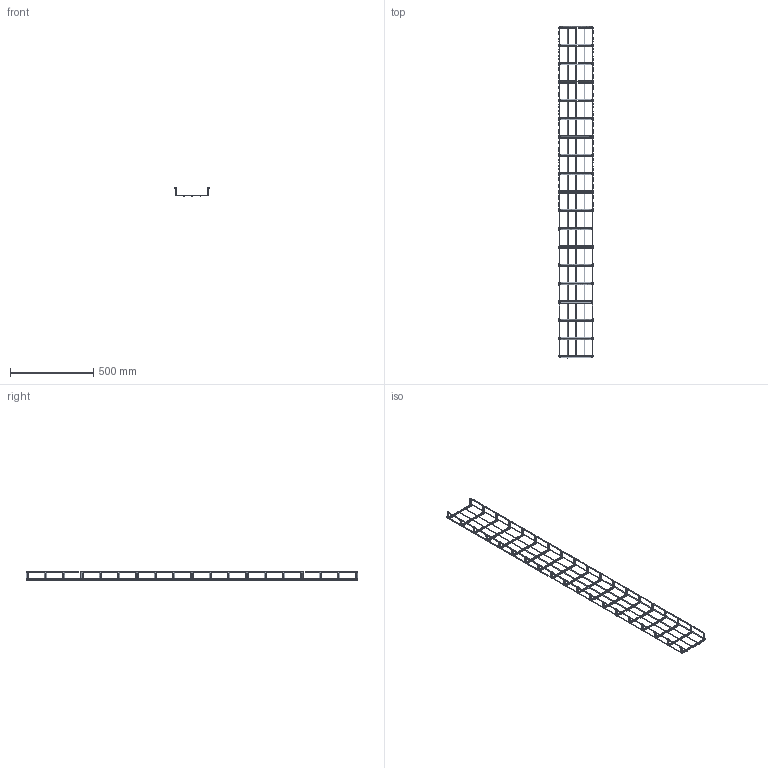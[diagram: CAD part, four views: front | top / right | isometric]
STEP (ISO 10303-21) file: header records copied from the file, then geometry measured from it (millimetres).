
FILE_DESCRIPTION(/* description */ (''),/* implementation_level */ '2;1');
FILE_NAME(/* name */ 'M2_200×050',/* time_stamp */ '2012-11-29T22:06:04+01:00',/* author */ (''),/* organization */ (''),/* preprocessor_version */ 'ST-DEVELOPER v10',/* originating_system */ '',/* authorisation */ '');
FILE_SCHEMA (('AUTOMOTIVE_DESIGN_CC2'));
Length unit declared in the file: millimetre
Products named in the file (1): 1
Bounding box: 204.19 x 1993.51 x 53.94 mm (x, y, z)
Surface area: 297609.6 mm2 (no closed solid volume)
Topology: 0 solids, 321 shells, 628 faces, 1856 edges, 1242 vertices
Faces by surface type: bspline 614, plane 14
Entity records: 52724 total; most frequent: CARTESIAN_POINT 40934, ORIENTED_EDGE 2470, EDGE_CURVE 1856, VERTEX_POINT 1242, B_SPLINE_CURVE_WITH_KNOTS 686, ADVANCED_FACE 628, FACE_OUTER_BOUND 628, EDGE_LOOP 628
